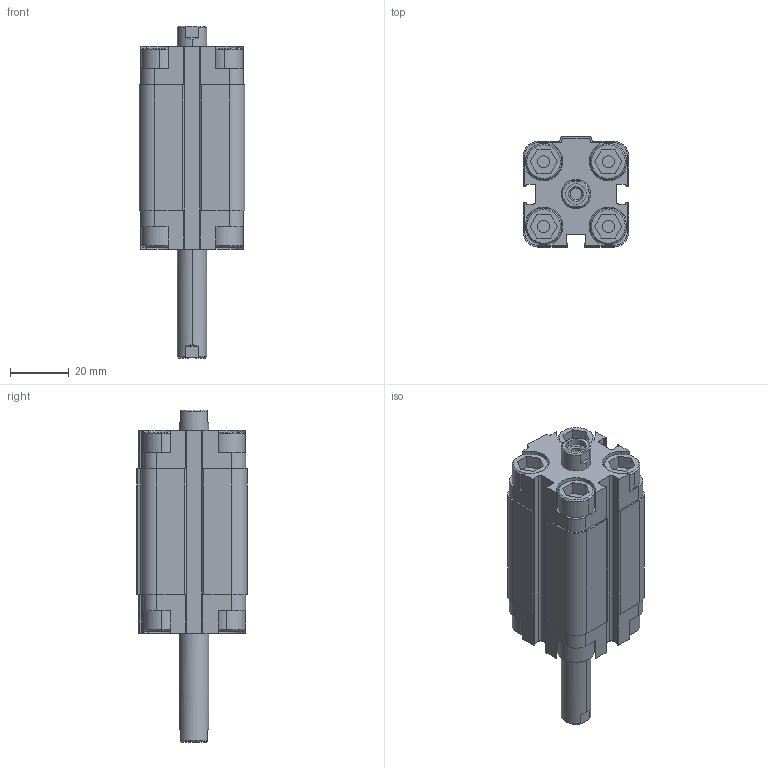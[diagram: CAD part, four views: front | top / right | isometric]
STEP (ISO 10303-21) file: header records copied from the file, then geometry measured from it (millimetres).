
FILE_DESCRIPTION (( 'STEP AP203' ), '1' );
FILE_NAME ('QJ0200030A.step', '2012-10-18T17:14:52', ( '' ), ( '' ), 'SwSTEP 2.0', 'SolidWorks 2012', '' );
FILE_SCHEMA (( 'CONFIG_CONTROL_DESIGN' ));
Length unit declared in the file: millimetre
Products named in the file (1): QJ0200030A
Bounding box: 36 x 37.5 x 113 mm (x, y, z)
Volume: 79360.7 mm3; surface area: 20643.4 mm2
Topology: 1 solids, 1 shells, 337 faces, 881 edges, 578 vertices
Faces by surface type: plane 194, cylinder 114, cone 29
Entity records: 10450 total; most frequent: CARTESIAN_POINT 1869, DIRECTION 1799, ORIENTED_EDGE 1762, EDGE_CURVE 881, AXIS2_PLACEMENT_3D 604, LINE 591, VECTOR 591, VERTEX_POINT 578
